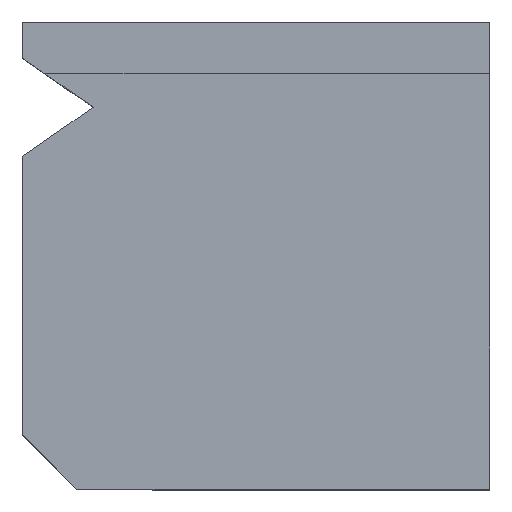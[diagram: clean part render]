
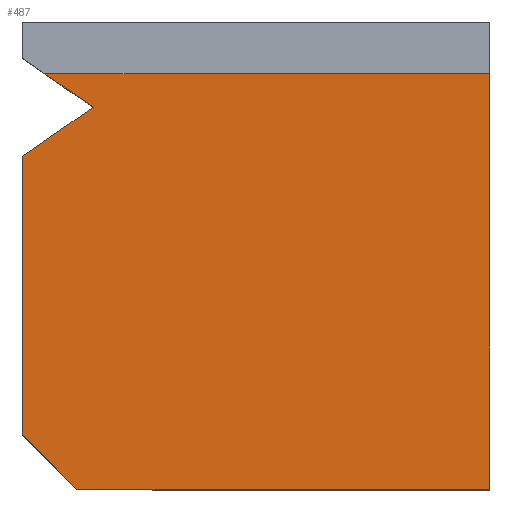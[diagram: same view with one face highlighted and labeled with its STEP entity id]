
A CAD part, top view. The second image highlights one B-rep face of the part: STEP entity #487.
In plain terms, the highlighted planar face has unit normal (0, 0, 1).
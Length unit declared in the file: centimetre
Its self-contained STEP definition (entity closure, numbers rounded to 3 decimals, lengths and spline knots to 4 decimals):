
#19 = VERTEX_POINT ( 'NONE', #680 ) ;
#22 = VERTEX_POINT ( 'NONE', #548 ) ;
#23 = VECTOR ( 'NONE', #151, 100. ) ;
#31 = ORIENTED_EDGE ( 'NONE', *, *, #619, .T. ) ;
#44 = EDGE_CURVE ( 'NONE', #59, #22, #351, .T. ) ;
#59 = VERTEX_POINT ( 'NONE', #701 ) ;
#76 = CARTESIAN_POINT ( 'NONE',  ( 48.1992, 889.1686, 1000. ) ) ;
#90 = VERTEX_POINT ( 'NONE', #225 ) ;
#106 = DIRECTION ( 'NONE',  ( 0.707, -0.707, 0. ) ) ;
#117 = ORIENTED_EDGE ( 'NONE', *, *, #597, .F. ) ;
#118 = CARTESIAN_POINT ( 'NONE',  ( 0., 1000., 1000. ) ) ;
#132 = DIRECTION ( 'NONE',  ( 1., 0., 0. ) ) ;
#134 = LINE ( 'NONE', #118, #689 ) ;
#148 = CARTESIAN_POINT ( 'NONE',  ( 0., 0., 1000. ) ) ;
#151 = DIRECTION ( 'NONE',  ( -0.822, -0.57, 0. ) ) ;
#170 = VECTOR ( 'NONE', #106, 100. ) ;
#203 = EDGE_CURVE ( 'NONE', #282, #90, #354, .T. ) ;
#220 = VECTOR ( 'NONE', #716, 100. ) ;
#225 = CARTESIAN_POINT ( 'NONE',  ( 151.7745, 817.3859, 1000. ) ) ;
#232 = DIRECTION ( 'NONE',  ( 1., 0., 0. ) ) ;
#235 = ORIENTED_EDGE ( 'NONE', *, *, #539, .T. ) ;
#242 = VECTOR ( 'NONE', #404, 100. ) ;
#251 = DIRECTION ( 'NONE',  ( 0., -1., 0. ) ) ;
#266 = DIRECTION ( 'NONE',  ( 0., 0., 1. ) ) ;
#282 = VERTEX_POINT ( 'NONE', #76 ) ;
#308 = CARTESIAN_POINT ( 'NONE',  ( 0., 889.1686, 1000. ) ) ;
#310 = ORIENTED_EDGE ( 'NONE', *, *, #341, .T. ) ;
#316 = AXIS2_PLACEMENT_3D ( 'NONE', #148, #266, #232 ) ;
#322 = VECTOR ( 'NONE', #421, 100. ) ;
#341 = EDGE_CURVE ( 'NONE', #90, #19, #547, .T. ) ;
#343 = LINE ( 'NONE', #631, #170 ) ;
#351 = LINE ( 'NONE', #739, #242 ) ;
#354 = LINE ( 'NONE', #601, #220 ) ;
#355 = EDGE_LOOP ( 'NONE', ( #310, #501, #235, #31, #558, #117, #659 ) ) ;
#404 = DIRECTION ( 'NONE',  ( 0., 1., 0. ) ) ;
#414 = LINE ( 'NONE', #706, #322 ) ;
#421 = DIRECTION ( 'NONE',  ( 1., 0., 0. ) ) ;
#426 = VERTEX_POINT ( 'NONE', #736 ) ;
#437 = CARTESIAN_POINT ( 'NONE',  ( 116.6541, 0., 1000. ) ) ;
#440 = VERTEX_POINT ( 'NONE', #437 ) ;
#468 = LINE ( 'NONE', #308, #586 ) ;
#487 = ADVANCED_FACE ( 'NONE', ( #725 ), #556, .T. ) ;
#501 = ORIENTED_EDGE ( 'NONE', *, *, #649, .T. ) ;
#539 = EDGE_CURVE ( 'NONE', #426, #440, #343, .T. ) ;
#547 = LINE ( 'NONE', #729, #23 ) ;
#548 = CARTESIAN_POINT ( 'NONE',  ( 1000., 889.1686, 1000. ) ) ;
#556 = PLANE ( 'NONE',  #316 ) ;
#558 = ORIENTED_EDGE ( 'NONE', *, *, #44, .T. ) ;
#586 = VECTOR ( 'NONE', #132, 100. ) ;
#597 = EDGE_CURVE ( 'NONE', #282, #22, #468, .T. ) ;
#601 = CARTESIAN_POINT ( 'NONE',  ( 151.7745, 817.3859, 1000. ) ) ;
#619 = EDGE_CURVE ( 'NONE', #440, #59, #414, .T. ) ;
#631 = CARTESIAN_POINT ( 'NONE',  ( 58.3271, 58.3271, 1000. ) ) ;
#649 = EDGE_CURVE ( 'NONE', #19, #426, #134, .T. ) ;
#659 = ORIENTED_EDGE ( 'NONE', *, *, #203, .T. ) ;
#680 = CARTESIAN_POINT ( 'NONE',  ( 0., 712.1987, 1000. ) ) ;
#689 = VECTOR ( 'NONE', #251, 100. ) ;
#701 = CARTESIAN_POINT ( 'NONE',  ( 1000., 0., 1000. ) ) ;
#706 = CARTESIAN_POINT ( 'NONE',  ( 0., 0., 1000. ) ) ;
#716 = DIRECTION ( 'NONE',  ( 0.822, -0.57, 0. ) ) ;
#725 = FACE_OUTER_BOUND ( 'NONE', #355, .T. ) ;
#729 = CARTESIAN_POINT ( 'NONE',  ( 0., 712.1987, 1000. ) ) ;
#736 = CARTESIAN_POINT ( 'NONE',  ( 0., 116.6541, 1000. ) ) ;
#739 = CARTESIAN_POINT ( 'NONE',  ( 1000., 1000., 1000. ) ) ;
